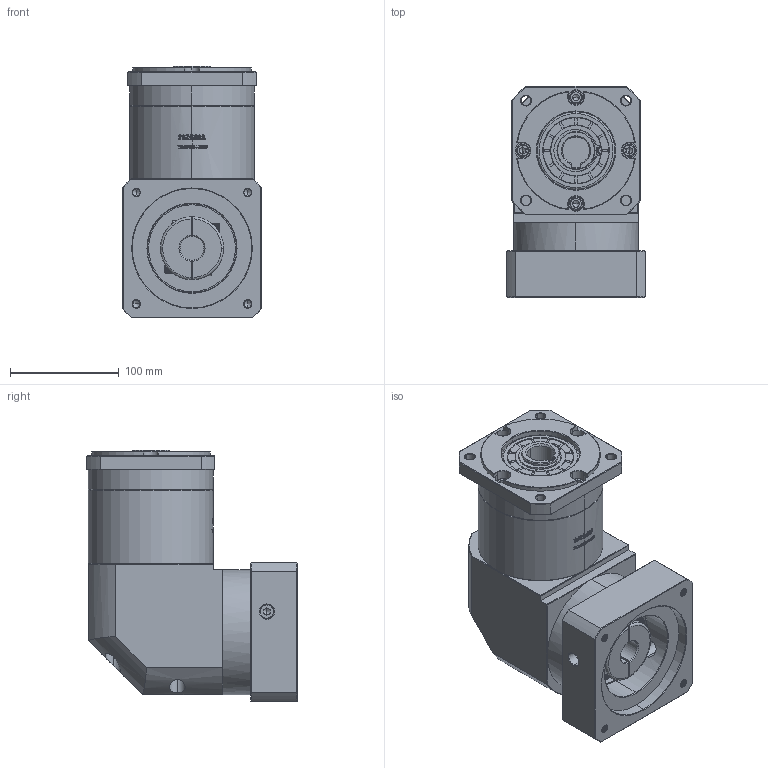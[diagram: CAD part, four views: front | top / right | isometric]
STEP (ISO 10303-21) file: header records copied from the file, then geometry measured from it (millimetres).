
FILE_DESCRIPTION (( 'STEP AP214' ), '1' );
FILE_NAME ('ZFR120A-K25-L2-22-110-145-M8.step', '2023-03-08T08:31:37', ( '' ), ( '' ), 'SwSTEP 2.0', 'SolidWorks 2016', '' );
FILE_SCHEMA (( 'AUTOMOTIVE_DESIGN' ));
Length unit declared in the file: millimetre
Products named in the file (1): ZFR120A-K25-L2-22-110-145-M8
Bounding box: 128 x 193.9 x 231.5 mm (x, y, z)
Volume: 3228897.5 mm3; surface area: 259649.5 mm2
Topology: 6 solids, 6 shells, 2815 faces, 7527 edges, 4857 vertices
Faces by surface type: plane 1477, bspline 598, cylinder 401, cone 331, torus 8
Entity records: 152483 total; most frequent: CARTESIAN_POINT 56868, ORIENTED_EDGE 14998, DIRECTION 10928, EDGE_CURVE 7499, VERTEX_POINT 4857, LINE 4696, VECTOR 4696, AXIS2_PLACEMENT_3D 3116
